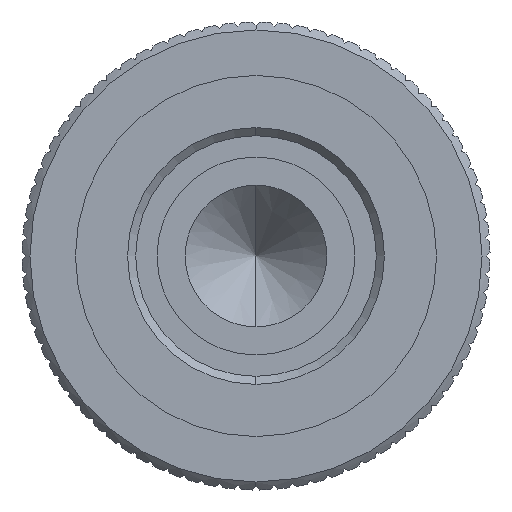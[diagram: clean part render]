
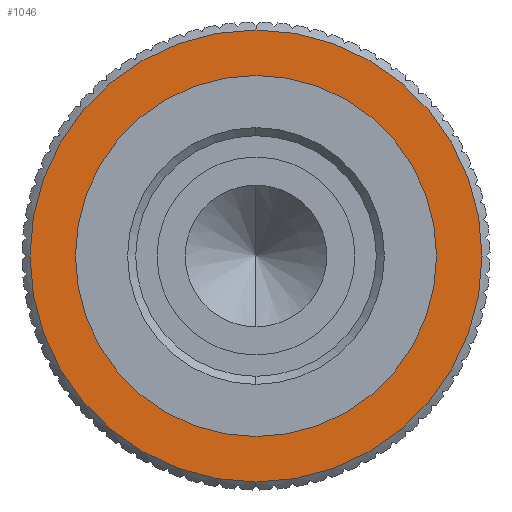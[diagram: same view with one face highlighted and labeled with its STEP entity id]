
A CAD part, front view. The second image highlights one B-rep face of the part: STEP entity #1046.
In plain terms, the highlighted planar face has unit normal (0, -1, 0).
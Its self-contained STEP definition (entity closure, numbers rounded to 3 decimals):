
#1046 = ADVANCED_FACE ( 'NONE', ( #27003, #16407 ), #3052, .T. ) ;
#1258 = CIRCLE ( 'NONE', #15928, 6.5 ) ;
#1683 = CIRCLE ( 'NONE', #6590, 8.45 ) ;
#2098 = DIRECTION ( 'NONE',  ( 0., -1., 0. ) ) ;
#2102 = CIRCLE ( 'NONE', #19841, 6.5 ) ;
#2660 = ORIENTED_EDGE ( 'NONE', *, *, #9838, .F. ) ;
#3052 = PLANE ( 'NONE',  #15227 ) ;
#4440 = DIRECTION ( 'NONE',  ( 0., -1., 0. ) ) ;
#4727 = DIRECTION ( 'NONE',  ( 0., 0., -1. ) ) ;
#6590 = AXIS2_PLACEMENT_3D ( 'NONE', #21146, #23114, #10235 ) ;
#7662 = CARTESIAN_POINT ( 'NONE',  ( 0., -10.8, -6.5 ) ) ;
#8301 = CARTESIAN_POINT ( 'NONE',  ( 0., -10.8, 6.5 ) ) ;
#9784 = DIRECTION ( 'NONE',  ( 0., 0., -1. ) ) ;
#9838 = EDGE_CURVE ( 'NONE', #13299, #15717, #2102, .T. ) ;
#10067 = EDGE_LOOP ( 'NONE', ( #23818, #16783 ) ) ;
#10235 = DIRECTION ( 'NONE',  ( 0., 0., -1. ) ) ;
#13299 = VERTEX_POINT ( 'NONE', #8301 ) ;
#13583 = EDGE_CURVE ( 'NONE', #22800, #17696, #1683, .T. ) ;
#13930 = CARTESIAN_POINT ( 'NONE',  ( 6.5, -10.8, 0. ) ) ;
#14192 = CARTESIAN_POINT ( 'NONE',  ( 0., -10.8, 0. ) ) ;
#15110 = CIRCLE ( 'NONE', #27093, 8.45 ) ;
#15227 = AXIS2_PLACEMENT_3D ( 'NONE', #13930, #24483, #9784 ) ;
#15539 = EDGE_CURVE ( 'NONE', #17696, #22800, #15110, .T. ) ;
#15717 = VERTEX_POINT ( 'NONE', #7662 ) ;
#15928 = AXIS2_PLACEMENT_3D ( 'NONE', #17376, #4440, #4727 ) ;
#16407 = FACE_BOUND ( 'NONE', #24680, .T. ) ;
#16487 = CARTESIAN_POINT ( 'NONE',  ( 0., -10.8, -8.45 ) ) ;
#16783 = ORIENTED_EDGE ( 'NONE', *, *, #13583, .T. ) ;
#17376 = CARTESIAN_POINT ( 'NONE',  ( 0., -10.8, 0. ) ) ;
#17696 = VERTEX_POINT ( 'NONE', #20817 ) ;
#18187 = DIRECTION ( 'NONE',  ( 0., -1., 0. ) ) ;
#19841 = AXIS2_PLACEMENT_3D ( 'NONE', #14192, #18187, #22611 ) ;
#20626 = EDGE_CURVE ( 'NONE', #15717, #13299, #1258, .T. ) ;
#20817 = CARTESIAN_POINT ( 'NONE',  ( 0., -10.8, 8.45 ) ) ;
#21126 = CARTESIAN_POINT ( 'NONE',  ( 0., -10.8, 0. ) ) ;
#21146 = CARTESIAN_POINT ( 'NONE',  ( 0., -10.8, 0. ) ) ;
#22057 = ORIENTED_EDGE ( 'NONE', *, *, #20626, .F. ) ;
#22611 = DIRECTION ( 'NONE',  ( 0., 0., -1. ) ) ;
#22800 = VERTEX_POINT ( 'NONE', #16487 ) ;
#23114 = DIRECTION ( 'NONE',  ( 0., -1., 0. ) ) ;
#23818 = ORIENTED_EDGE ( 'NONE', *, *, #15539, .T. ) ;
#24483 = DIRECTION ( 'NONE',  ( 0., -1., 0. ) ) ;
#24680 = EDGE_LOOP ( 'NONE', ( #22057, #2660 ) ) ;
#25631 = DIRECTION ( 'NONE',  ( 0., 0., -1. ) ) ;
#27003 = FACE_OUTER_BOUND ( 'NONE', #10067, .T. ) ;
#27093 = AXIS2_PLACEMENT_3D ( 'NONE', #21126, #2098, #25631 ) ;
